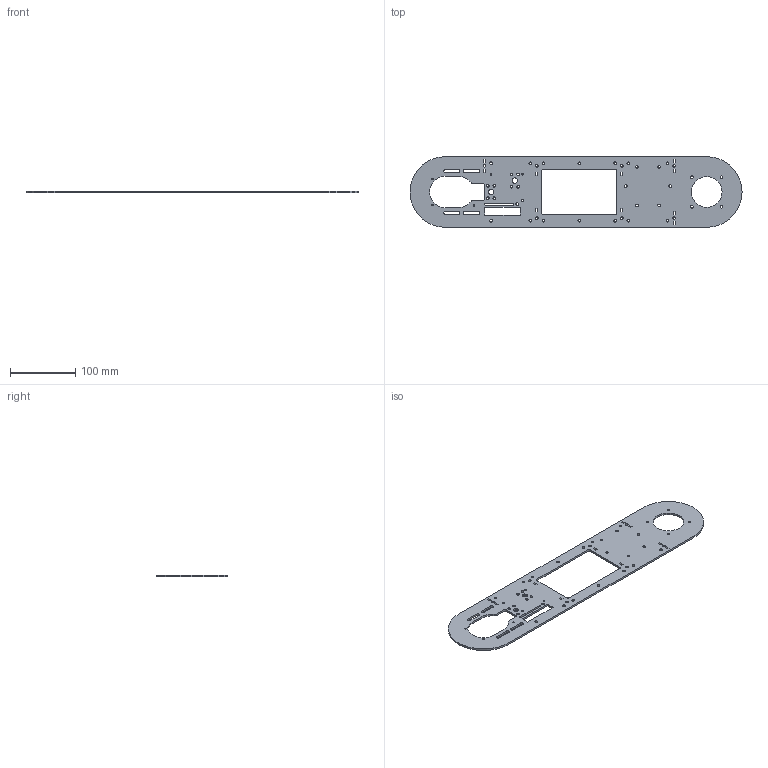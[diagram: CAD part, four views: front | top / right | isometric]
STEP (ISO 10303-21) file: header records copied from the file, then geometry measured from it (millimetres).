
FILE_DESCRIPTION(/* description */ ('Unknown'),/* implementation_level */ '2;1');
FILE_NAME(/* name */ 'PSM02',/* time_stamp */ '2025-10-07T10:37:08+02:00',/* author */ ('Unknown'),/* organization */ ('Unknown'),/* preprocessor_version */ 'ST-DEVELOPER v19.4',/* originating_system */ 'Solid Edge',/* authorisation */ 'Unknown');
FILE_SCHEMA (('AUTOMOTIVE_DESIGN {1 0 10303 214 3 1 1}'));
Length unit declared in the file: millimetre
Products named in the file (1): PSM02
Bounding box: 508 x 108 x 3 mm (x, y, z)
Volume: 111946.1 mm3; surface area: 83895.2 mm2
Topology: 1 solids, 1 shells, 139 faces, 459 edges, 322 vertices
Faces by surface type: cylinder 72, plane 67
Full cylindrical faces by diameter (mm): 2.5 x6, 4 x40, 8 x2, 47 x1
Entity records: 4742 total; most frequent: DIRECTION 786, CARTESIAN_POINT 776, ORIENTED_EDGE 724, EDGE_CURVE 362, EDGE_LOOP 322, FACE_BOUND 322, AXIS2_PLACEMENT_3D 284, VERTEX_POINT 274
